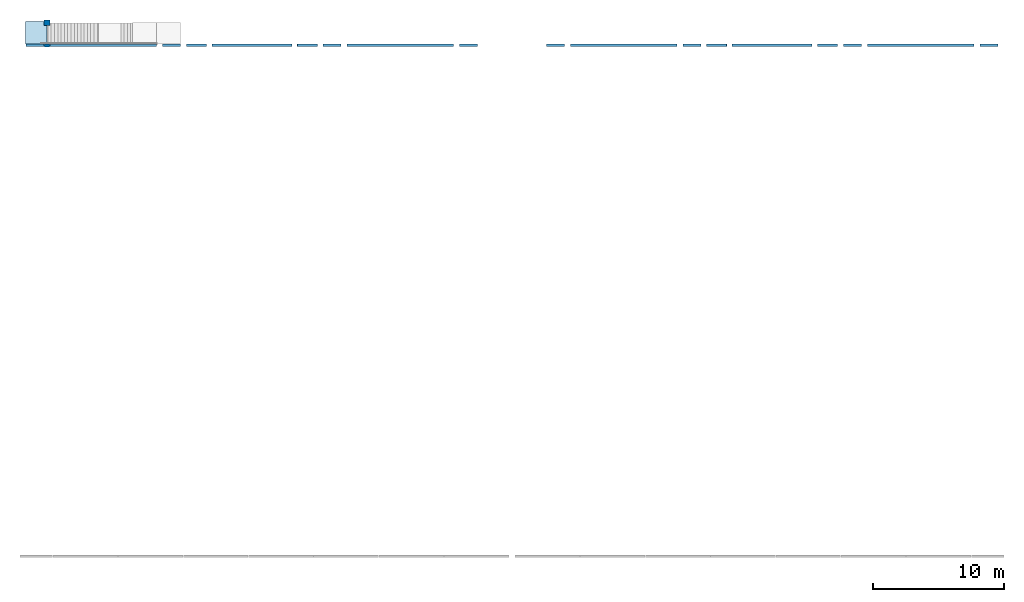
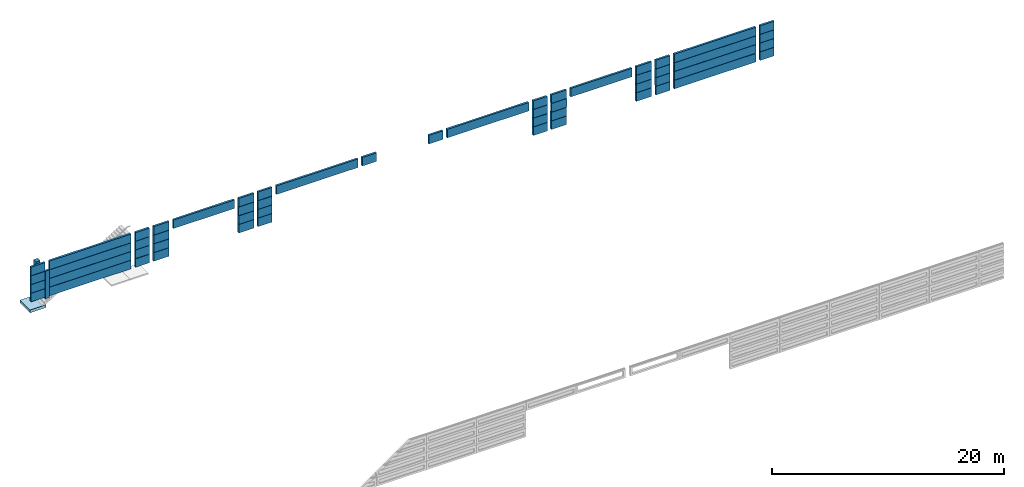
# One storey, part 1 of 5: 54 beams, 2 columns, 1 slab.
"""IFC2X3 building model written with IfcOpenShell, lengths in millimetres."""

from ifc_helpers import new_model, entity, si_unit, converted_unit, derived_unit, direction, frame, frame_2d, origin, origin_2d_with_axis, place, context, subcontext, project, spatial, polyline, rectangle, outline, extrude, source, transform, mapped, material, layer, layer_set, layer_usage, type_object, type_shapes, element, save


model = new_model("IFC2X3")

# Units and contexts
model_context = context("Model", 3, precision=0.01, world=origin(), true_north=direction((6.12303176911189e-17, 1.0)))
body_context = subcontext(model_context, "Body", "Model", "MODEL_VIEW")
ifc_project = project(units=[si_unit("LENGTHUNIT", "METRE", prefix="MILLI"), si_unit("AREAUNIT", "SQUARE_METRE"), si_unit("VOLUMEUNIT", "CUBIC_METRE"), converted_unit("PLANEANGLEUNIT", "DEGREE", entity("IfcRatioMeasure", 0.0174532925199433), si_unit("PLANEANGLEUNIT", "RADIAN"), dimensions=[0, 0, 0, 0, 0, 0, 0]), si_unit("MASSUNIT", "GRAM", prefix="KILO"), derived_unit("MASSDENSITYUNIT", [(si_unit("MASSUNIT", "GRAM", prefix="KILO"), 1), (si_unit("LENGTHUNIT", "METRE"), -3)]), derived_unit("MOMENTOFINERTIAUNIT", [(si_unit("LENGTHUNIT", "METRE"), 4)]), si_unit("TIMEUNIT", "SECOND"), si_unit("FREQUENCYUNIT", "HERTZ"), si_unit("THERMODYNAMICTEMPERATUREUNIT", "DEGREE_CELSIUS"), derived_unit("THERMALTRANSMITTANCEUNIT", [(si_unit("MASSUNIT", "GRAM", prefix="KILO"), 1), (si_unit("THERMODYNAMICTEMPERATUREUNIT", "KELVIN"), -1), (si_unit("TIMEUNIT", "SECOND"), -3)]), derived_unit("VOLUMETRICFLOWRATEUNIT", [(si_unit("LENGTHUNIT", "METRE"), 3), (si_unit("TIMEUNIT", "SECOND"), -1)]), si_unit("ELECTRICCURRENTUNIT", "AMPERE"), si_unit("ELECTRICVOLTAGEUNIT", "VOLT"), si_unit("POWERUNIT", "WATT"), si_unit("FORCEUNIT", "NEWTON", prefix="KILO"), si_unit("ILLUMINANCEUNIT", "LUX"), si_unit("LUMINOUSFLUXUNIT", "LUMEN"), si_unit("LUMINOUSINTENSITYUNIT", "CANDELA"), derived_unit("USERDEFINED", [(si_unit("MASSUNIT", "GRAM", prefix="KILO"), -1), (si_unit("LENGTHUNIT", "METRE"), -2), (si_unit("TIMEUNIT", "SECOND"), 3), (si_unit("LUMINOUSFLUXUNIT", "LUMEN"), 1)]), derived_unit("LINEARVELOCITYUNIT", [(si_unit("LENGTHUNIT", "METRE"), 1), (si_unit("TIMEUNIT", "SECOND"), -1)]), si_unit("PRESSUREUNIT", "PASCAL"), derived_unit("USERDEFINED", [(si_unit("LENGTHUNIT", "METRE"), -2), (si_unit("MASSUNIT", "GRAM", prefix="KILO"), 1), (si_unit("TIMEUNIT", "SECOND"), -2)]), derived_unit("LINEARFORCEUNIT", [(si_unit("MASSUNIT", "GRAM", prefix="KILO"), 1), (si_unit("LENGTHUNIT", "METRE"), 1), (si_unit("TIMEUNIT", "SECOND"), -2), (si_unit("LENGTHUNIT", "METRE"), -1)]), derived_unit("PLANARFORCEUNIT", [(si_unit("MASSUNIT", "GRAM", prefix="KILO"), 1), (si_unit("LENGTHUNIT", "METRE"), 1), (si_unit("TIMEUNIT", "SECOND"), -2), (si_unit("LENGTHUNIT", "METRE"), -2)])], contexts=[model_context])

# Site, building, storey
site_placement = place(None, frame((10627.5135316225, 21939.0796949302, 0.0)))
site = spatial("IfcSite", under=ifc_project, at=site_placement, Name="Default", CompositionType="ELEMENT")
building_placement = place(site_placement, origin())
building = spatial("IfcBuilding", under=site, at=building_placement, CompositionType="ELEMENT")
storey_placement = place(building_placement, origin())
storey = spatial("IfcBuildingStorey", under=building, at=storey_placement, Name="RDC", CompositionType="ELEMENT", Elevation=0.0)

# Columns
ifc_material_1 = material(Name="Concrete, Precast Smooth, Light Grey")
column_type_1 = type_object("IfcColumnType", Name="M_Precast-Rectangular Column:430X200", PredefinedType="COLUMN", material=ifc_material_1)
shared_shape_1 = source(origin(), body_context, "Body", "SweptSolid", [
    extrude(outline(polyline([(-75.0, -215.0), (75.0, -215.0), (100.0, -190.0), (100.0, 190.0), (75.0, 215.0), (-75.0, 215.0), (-100.0, 190.0), (-100.0, -190.0), (-75.0, -215.0)])), frame((0.0, 0.0, 0.0), z_axis=(0.0, 0.0, 1.0), x_axis=(0.0, -1.0, 0.0)), (0.0, 0.0, 1.0), 2910.0),
])
type_shapes(column_type_1, [shared_shape_1])
column_1_placement = place(storey_placement, frame((-8797.51353162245, 16590.9203050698, 0.0), z_axis=(0.0, 0.0, 1.0), x_axis=(-1.0, 0.0, 0.0)))
element("IfcColumn", 1, at=column_1_placement, inside=storey, type_object=column_type_1, material=ifc_material_1, Name="M_Precast-Rectangular Column:430X200", ObjectType="M_Precast-Rectangular Column:430X200", context=body_context, shape_type="MappedRepresentation", body=[
    mapped(shared_shape_1, transform((0.0, 0.0, 0.0), scale=1.0)),
])
column_type_2 = type_object("IfcColumnType", Name="M_Precast-Square Column:430x430", PredefinedType="COLUMN", material=ifc_material_1)
shared_shape_2 = source(origin(), body_context, "Body", "SweptSolid", [
    extrude(rectangle(XDim=430.0, YDim=430.0, at=origin_2d_with_axis()), frame((0.0, 0.0, 0.0), z_axis=(0.0, 0.0, 1.0), x_axis=(0.0, -1.0, 0.0)), (0.0, 0.0, 1.0), 2910.0),
])
type_shapes(column_type_2, [shared_shape_2])
column_2_placement = place(storey_placement, frame((-8797.51353162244, 18310.9203050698, 0.0), z_axis=(0.0, 0.0, 1.0), x_axis=(-1.0, 0.0, 0.0)))
element("IfcColumn", 2, at=column_2_placement, inside=storey, type_object=column_type_2, material=ifc_material_1, Name="M_Precast-Square Column:430x430", ObjectType="M_Precast-Square Column:430x430", context=body_context, shape_type="MappedRepresentation", body=[
    mapped(shared_shape_2, transform((0.0, 0.0, 0.0), scale=1.0)),
])

# Beams
beam_type_1 = type_object("IfcBeamType", Name="NBS_AndertonConcreteProductsLtd_PrcstConcPnls_BallastBoard300:PPT TYPE4", PredefinedType="NOTDEFINED")
beam_1_placement = place(storey_placement, origin())
element("IfcBeam", 3, at=beam_1_placement, inside=storey, type_object=beam_type_1, material=ifc_material_1, Name="NBS_AndertonConcreteProductsLtd_PrcstConcPnls_BallastBoard300:PPT TYPE4", ObjectType="NBS_AndertonConcreteProductsLtd_PrcstConcPnls_BallastBoard300:PPT TYPE4", context=body_context, shape_type="SweptSolid", body=[
    extrude(rectangle(XDim=898.300000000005, YDim=200.0, at=frame_2d((1.08713038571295e-12, 3.97903932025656e-13), x_axis=(0.0, 1.0))), frame((-8582.51353162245, 16595.9203050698, 2459.15), z_axis=(1.0, 0.0, 0.0), x_axis=(0.0, 1.0, 0.0)), (0.0, 0.0, 1.0), 8120.0),
])
beam_2_placement = place(storey_placement, origin())
element("IfcBeam", 4, at=beam_2_placement, inside=storey, type_object=beam_type_1, material=ifc_material_1, Name="NBS_AndertonConcreteProductsLtd_PrcstConcPnls_BallastBoard300:PPT TYPE4", ObjectType="NBS_AndertonConcreteProductsLtd_PrcstConcPnls_BallastBoard300:PPT TYPE4", context=body_context, shape_type="SweptSolid", body=[
    extrude(rectangle(XDim=898.300000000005, YDim=200.0, at=frame_2d((1.08713038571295e-12, -1.4210854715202e-13), x_axis=(0.0, 1.0))), frame((-8582.51353162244, 16595.9203050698, 1540.84999999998), z_axis=(1.0, 0.0, 0.0), x_axis=(0.0, 1.0, 0.0)), (0.0, 0.0, 1.0), 8120.0),
])
beam_3_placement = place(storey_placement, origin())
element("IfcBeam", 5, at=beam_3_placement, inside=storey, type_object=beam_type_1, material=ifc_material_1, Name="NBS_AndertonConcreteProductsLtd_PrcstConcPnls_BallastBoard300:PPT TYPE4", ObjectType="NBS_AndertonConcreteProductsLtd_PrcstConcPnls_BallastBoard300:PPT TYPE4", context=body_context, shape_type="SweptSolid", body=[
    extrude(rectangle(XDim=898.300000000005, YDim=200.0, at=frame_2d((-1.08713038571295e-12, 0.0), x_axis=(0.0, 1.0))), frame((-8582.51353162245, 16595.9203050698, 622.549999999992), z_axis=(1.0, 0.0, 0.0), x_axis=(0.0, 1.0, 0.0)), (0.0, 0.0, 1.0), 8120.0),
])
beam_4_placement = place(storey_placement, origin())
element("IfcBeam", 6, at=beam_4_placement, inside=storey, type_object=beam_type_1, material=ifc_material_1, Name="NBS_AndertonConcreteProductsLtd_PrcstConcPnls_BallastBoard300:PPT TYPE4", ObjectType="NBS_AndertonConcreteProductsLtd_PrcstConcPnls_BallastBoard300:PPT TYPE4", context=body_context, shape_type="SweptSolid", body=[
    extrude(rectangle(XDim=898.300000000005, YDim=200.0, at=frame_2d((-1.08713038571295e-12, 0.0), x_axis=(0.0, 1.0))), frame((-8582.51353162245, 16595.9203050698, 3377.45000000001), z_axis=(1.0, 0.0, 0.0), x_axis=(0.0, 1.0, 0.0)), (0.0, 0.0, 1.0), 8120.0),
])
beam_5_placement = place(storey_placement, origin())
element("IfcBeam", 7, at=beam_5_placement, inside=storey, type_object=beam_type_1, material=ifc_material_1, Name="NBS_AndertonConcreteProductsLtd_PrcstConcPnls_BallastBoard300:PPT TYPE4", ObjectType="NBS_AndertonConcreteProductsLtd_PrcstConcPnls_BallastBoard300:PPT TYPE4", context=body_context, shape_type="SweptSolid", body=[
    extrude(rectangle(XDim=898.300000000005, YDim=200.0, at=frame_2d((1.08713038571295e-12, 0.0), x_axis=(0.0, 1.0))), frame((14015.4864683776, 16595.9203050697, 3377.45000000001), z_axis=(1.0, 0.0, 0.0), x_axis=(0.0, 1.0, 0.0)), (0.0, 0.0, 1.0), 8120.0),
])
beam_6_placement = place(storey_placement, origin())
element("IfcBeam", 8, at=beam_6_placement, inside=storey, type_object=beam_type_1, material=ifc_material_1, Name="NBS_AndertonConcreteProductsLtd_PrcstConcPnls_BallastBoard300:PPT TYPE4", ObjectType="NBS_AndertonConcreteProductsLtd_PrcstConcPnls_BallastBoard300:PPT TYPE4", context=body_context, shape_type="SweptSolid", body=[
    extrude(rectangle(XDim=898.300000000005, YDim=200.0, at=frame_2d((1.4210854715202e-13, 1.08713038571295e-12), x_axis=(1.0, 0.0))), frame((53617.4864683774, 16595.9203050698, 2459.15), z_axis=(1.0, 0.0, 0.0), x_axis=(0.0, 0.0, -1.0)), (0.0, 0.0, 1.0), 8120.0),
])
beam_7_placement = place(storey_placement, origin())
element("IfcBeam", 9, at=beam_7_placement, inside=storey, type_object=beam_type_1, material=ifc_material_1, Name="NBS_AndertonConcreteProductsLtd_PrcstConcPnls_BallastBoard300:PPT TYPE4", ObjectType="NBS_AndertonConcreteProductsLtd_PrcstConcPnls_BallastBoard300:PPT TYPE4", context=body_context, shape_type="SweptSolid", body=[
    extrude(rectangle(XDim=898.300000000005, YDim=200.0, at=frame_2d((0.0, 1.08713038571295e-12), x_axis=(1.0, 0.0))), frame((53617.4864683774, 16595.9203050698, 1540.84999999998), z_axis=(1.0, 0.0, 0.0), x_axis=(0.0, 0.0, -1.0)), (0.0, 0.0, 1.0), 8120.0),
])
beam_8_placement = place(storey_placement, origin())
element("IfcBeam", 10, at=beam_8_placement, inside=storey, type_object=beam_type_1, material=ifc_material_1, Name="NBS_AndertonConcreteProductsLtd_PrcstConcPnls_BallastBoard300:PPT TYPE4", ObjectType="NBS_AndertonConcreteProductsLtd_PrcstConcPnls_BallastBoard300:PPT TYPE4", context=body_context, shape_type="SweptSolid", body=[
    extrude(rectangle(XDim=898.300000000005, YDim=200.0, at=frame_2d((0.0, -1.08713038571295e-12), x_axis=(1.0, 0.0))), frame((53617.4864683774, 16595.9203050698, 622.549999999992), z_axis=(1.0, 0.0, 0.0), x_axis=(0.0, 0.0, -1.0)), (0.0, 0.0, 1.0), 8120.0),
])
beam_9_placement = place(storey_placement, origin())
element("IfcBeam", 11, at=beam_9_placement, inside=storey, type_object=beam_type_1, material=ifc_material_1, Name="NBS_AndertonConcreteProductsLtd_PrcstConcPnls_BallastBoard300:PPT TYPE4", ObjectType="NBS_AndertonConcreteProductsLtd_PrcstConcPnls_BallastBoard300:PPT TYPE4", context=body_context, shape_type="SweptSolid", body=[
    extrude(rectangle(XDim=898.300000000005, YDim=200.0, at=frame_2d((2.8421709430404e-13, 1.08713038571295e-12), x_axis=(1.0, 0.0))), frame((53617.4864683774, 16595.9203050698, 3377.45000000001), z_axis=(1.0, 0.0, 0.0), x_axis=(0.0, 0.0, -1.0)), (0.0, 0.0, 1.0), 8120.0),
])
beam_10_placement = place(storey_placement, origin())
element("IfcBeam", 12, at=beam_10_placement, inside=storey, type_object=beam_type_1, material=ifc_material_1, Name="NBS_AndertonConcreteProductsLtd_PrcstConcPnls_BallastBoard300:PPT TYPE4", ObjectType="NBS_AndertonConcreteProductsLtd_PrcstConcPnls_BallastBoard300:PPT TYPE4", context=body_context, shape_type="SweptSolid", body=[
    extrude(rectangle(XDim=898.300000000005, YDim=200.0, at=frame_2d((2.8421709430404e-13, -1.08713038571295e-12), x_axis=(1.0, 0.0))), frame((31019.4864683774, 16595.9203050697, 3377.45000000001), z_axis=(1.0, 0.0, 0.0), x_axis=(0.0, 0.0, -1.0)), (0.0, 0.0, 1.0), 8120.0),
])
beam_type_2 = type_object("IfcBeamType", Name="NBS_AndertonConcreteProductsLtd_PrcstConcPnls_BallastBoard300:PPT TYPE5", PredefinedType="NOTDEFINED")
beam_11_placement = place(storey_placement, origin())
element("IfcBeam", 13, at=beam_11_placement, inside=storey, type_object=beam_type_2, material=ifc_material_1, Name="NBS_AndertonConcreteProductsLtd_PrcstConcPnls_BallastBoard300:PPT TYPE5", ObjectType="NBS_AndertonConcreteProductsLtd_PrcstConcPnls_BallastBoard300:PPT TYPE5", context=body_context, shape_type="SweptSolid", body=[
    extrude(rectangle(XDim=898.300000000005, YDim=200.0, at=frame_2d((-1.08713038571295e-12, 3.97903932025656e-13), x_axis=(0.0, 1.0))), frame((1799.48646837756, 16595.9203050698, 2459.15), z_axis=(1.0, 0.0, 0.0), x_axis=(0.0, 1.0, 0.0)), (0.0, 0.0, 1.0), 1525.0),
])
beam_12_placement = place(storey_placement, origin())
element("IfcBeam", 14, at=beam_12_placement, inside=storey, type_object=beam_type_2, material=ifc_material_1, Name="NBS_AndertonConcreteProductsLtd_PrcstConcPnls_BallastBoard300:PPT TYPE5", ObjectType="NBS_AndertonConcreteProductsLtd_PrcstConcPnls_BallastBoard300:PPT TYPE5", context=body_context, shape_type="SweptSolid", body=[
    extrude(rectangle(XDim=898.300000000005, YDim=200.0, at=frame_2d((-1.08713038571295e-12, -1.4210854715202e-13), x_axis=(0.0, 1.0))), frame((1799.48646837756, 16595.9203050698, 1540.85), z_axis=(1.0, 0.0, 0.0), x_axis=(0.0, 1.0, 0.0)), (0.0, 0.0, 1.0), 1525.0),
])
beam_13_placement = place(storey_placement, origin())
element("IfcBeam", 15, at=beam_13_placement, inside=storey, type_object=beam_type_2, material=ifc_material_1, Name="NBS_AndertonConcreteProductsLtd_PrcstConcPnls_BallastBoard300:PPT TYPE5", ObjectType="NBS_AndertonConcreteProductsLtd_PrcstConcPnls_BallastBoard300:PPT TYPE5", context=body_context, shape_type="SweptSolid", body=[
    extrude(rectangle(XDim=898.300000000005, YDim=200.0, at=frame_2d((1.08713038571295e-12, 0.0), x_axis=(0.0, 1.0))), frame((1799.48646837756, 16595.9203050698, 622.549999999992), z_axis=(1.0, 0.0, 0.0), x_axis=(0.0, 1.0, 0.0)), (0.0, 0.0, 1.0), 1525.0),
])
beam_14_placement = place(storey_placement, origin())
element("IfcBeam", 16, at=beam_14_placement, inside=storey, type_object=beam_type_2, material=ifc_material_1, Name="NBS_AndertonConcreteProductsLtd_PrcstConcPnls_BallastBoard300:PPT TYPE5", ObjectType="NBS_AndertonConcreteProductsLtd_PrcstConcPnls_BallastBoard300:PPT TYPE5", context=body_context, shape_type="SweptSolid", body=[
    extrude(rectangle(XDim=898.300000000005, YDim=200.0, at=frame_2d((1.08713038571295e-12, 0.0), x_axis=(0.0, 1.0))), frame((1799.48646837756, 16595.9203050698, 3377.45000000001), z_axis=(1.0, 0.0, 0.0), x_axis=(0.0, 1.0, 0.0)), (0.0, 0.0, 1.0), 1525.0),
])
beam_15_placement = place(storey_placement, origin())
element("IfcBeam", 17, at=beam_15_placement, inside=storey, type_object=beam_type_2, material=ifc_material_1, Name="NBS_AndertonConcreteProductsLtd_PrcstConcPnls_BallastBoard300:PPT TYPE5", ObjectType="NBS_AndertonConcreteProductsLtd_PrcstConcPnls_BallastBoard300:PPT TYPE5", context=body_context, shape_type="SweptSolid", body=[
    extrude(rectangle(XDim=898.300000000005, YDim=200.0, at=frame_2d((1.08713038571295e-12, 3.97903932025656e-13), x_axis=(0.0, 1.0))), frame((10233.6417434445, 16595.9203050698, 2459.15), z_axis=(1.0, 0.0, 0.0), x_axis=(0.0, 1.0, 0.0)), (0.0, 0.0, 1.0), 1525.0),
])
beam_16_placement = place(storey_placement, origin())
element("IfcBeam", 18, at=beam_16_placement, inside=storey, type_object=beam_type_2, material=ifc_material_1, Name="NBS_AndertonConcreteProductsLtd_PrcstConcPnls_BallastBoard300:PPT TYPE5", ObjectType="NBS_AndertonConcreteProductsLtd_PrcstConcPnls_BallastBoard300:PPT TYPE5", context=body_context, shape_type="SweptSolid", body=[
    extrude(rectangle(XDim=898.300000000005, YDim=200.0, at=frame_2d((1.08713038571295e-12, -1.4210854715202e-13), x_axis=(0.0, 1.0))), frame((10258.6417434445, 16595.9203050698, 1540.85), z_axis=(1.0, 0.0, 0.0), x_axis=(0.0, 1.0, 0.0)), (0.0, 0.0, 1.0), 1525.0),
])
beam_17_placement = place(storey_placement, origin())
element("IfcBeam", 19, at=beam_17_placement, inside=storey, type_object=beam_type_2, material=ifc_material_1, Name="NBS_AndertonConcreteProductsLtd_PrcstConcPnls_BallastBoard300:PPT TYPE5", ObjectType="NBS_AndertonConcreteProductsLtd_PrcstConcPnls_BallastBoard300:PPT TYPE5", context=body_context, shape_type="SweptSolid", body=[
    extrude(rectangle(XDim=898.300000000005, YDim=200.0, at=frame_2d((1.08713038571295e-12, 0.0), x_axis=(0.0, 1.0))), frame((10258.6417434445, 16595.9203050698, 622.549999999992), z_axis=(1.0, 0.0, 0.0), x_axis=(0.0, 1.0, 0.0)), (0.0, 0.0, 1.0), 1525.0),
])
beam_18_placement = place(storey_placement, origin())
element("IfcBeam", 20, at=beam_18_placement, inside=storey, type_object=beam_type_2, material=ifc_material_1, Name="NBS_AndertonConcreteProductsLtd_PrcstConcPnls_BallastBoard300:PPT TYPE5", ObjectType="NBS_AndertonConcreteProductsLtd_PrcstConcPnls_BallastBoard300:PPT TYPE5", context=body_context, shape_type="SweptSolid", body=[
    extrude(rectangle(XDim=898.300000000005, YDim=200.0, at=frame_2d((-1.08713038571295e-12, 0.0), x_axis=(0.0, 1.0))), frame((10258.6417434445, 16595.9203050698, 3377.45000000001), z_axis=(1.0, 0.0, 0.0), x_axis=(0.0, 1.0, 0.0)), (0.0, 0.0, 1.0), 1525.0),
])
beam_19_placement = place(storey_placement, origin())
element("IfcBeam", 21, at=beam_19_placement, inside=storey, type_object=beam_type_2, material=ifc_material_1, Name="NBS_AndertonConcreteProductsLtd_PrcstConcPnls_BallastBoard300:PPT TYPE5", ObjectType="NBS_AndertonConcreteProductsLtd_PrcstConcPnls_BallastBoard300:PPT TYPE5", context=body_context, shape_type="SweptSolid", body=[
    extrude(rectangle(XDim=898.300000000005, YDim=200.0, at=frame_2d((1.4210854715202e-13, -1.08713038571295e-12), x_axis=(1.0, 0.0))), frame((49830.4864683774, 16595.9203050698, 2459.15), z_axis=(1.0, 0.0, 0.0), x_axis=(0.0, 0.0, -1.0)), (0.0, 0.0, 1.0), 1525.0),
])
beam_20_placement = place(storey_placement, origin())
element("IfcBeam", 22, at=beam_20_placement, inside=storey, type_object=beam_type_2, material=ifc_material_1, Name="NBS_AndertonConcreteProductsLtd_PrcstConcPnls_BallastBoard300:PPT TYPE5", ObjectType="NBS_AndertonConcreteProductsLtd_PrcstConcPnls_BallastBoard300:PPT TYPE5", context=body_context, shape_type="SweptSolid", body=[
    extrude(rectangle(XDim=898.300000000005, YDim=200.0, at=frame_2d((0.0, -1.08713038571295e-12), x_axis=(1.0, 0.0))), frame((49830.4864683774, 16595.9203050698, 1540.85), z_axis=(1.0, 0.0, 0.0), x_axis=(0.0, 0.0, -1.0)), (0.0, 0.0, 1.0), 1525.0),
])
beam_21_placement = place(storey_placement, origin())
element("IfcBeam", 23, at=beam_21_placement, inside=storey, type_object=beam_type_2, material=ifc_material_1, Name="NBS_AndertonConcreteProductsLtd_PrcstConcPnls_BallastBoard300:PPT TYPE5", ObjectType="NBS_AndertonConcreteProductsLtd_PrcstConcPnls_BallastBoard300:PPT TYPE5", context=body_context, shape_type="SweptSolid", body=[
    extrude(rectangle(XDim=898.300000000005, YDim=200.0, at=frame_2d((0.0, -1.08713038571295e-12), x_axis=(1.0, 0.0))), frame((49830.4864683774, 16595.9203050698, 622.549999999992), z_axis=(1.0, 0.0, 0.0), x_axis=(0.0, 0.0, -1.0)), (0.0, 0.0, 1.0), 1525.0),
])
beam_22_placement = place(storey_placement, origin())
element("IfcBeam", 24, at=beam_22_placement, inside=storey, type_object=beam_type_2, material=ifc_material_1, Name="NBS_AndertonConcreteProductsLtd_PrcstConcPnls_BallastBoard300:PPT TYPE5", ObjectType="NBS_AndertonConcreteProductsLtd_PrcstConcPnls_BallastBoard300:PPT TYPE5", context=body_context, shape_type="SweptSolid", body=[
    extrude(rectangle(XDim=898.300000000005, YDim=200.0, at=frame_2d((2.8421709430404e-13, 1.08713038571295e-12), x_axis=(1.0, 0.0))), frame((49830.4864683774, 16595.9203050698, 3377.45000000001), z_axis=(1.0, 0.0, 0.0), x_axis=(0.0, 0.0, -1.0)), (0.0, 0.0, 1.0), 1525.0),
])
beam_23_placement = place(storey_placement, origin())
element("IfcBeam", 25, at=beam_23_placement, inside=storey, type_object=beam_type_2, material=ifc_material_1, Name="NBS_AndertonConcreteProductsLtd_PrcstConcPnls_BallastBoard300:PPT TYPE5", ObjectType="NBS_AndertonConcreteProductsLtd_PrcstConcPnls_BallastBoard300:PPT TYPE5", context=body_context, shape_type="SweptSolid", body=[
    extrude(rectangle(XDim=898.300000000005, YDim=200.0, at=frame_2d((1.4210854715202e-13, 1.08713038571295e-12), x_axis=(1.0, 0.0))), frame((41396.3311933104, 16595.9203050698, 2459.15), z_axis=(1.0, 0.0, 0.0), x_axis=(0.0, 0.0, -1.0)), (0.0, 0.0, 1.0), 1525.0),
])
beam_24_placement = place(storey_placement, origin())
element("IfcBeam", 26, at=beam_24_placement, inside=storey, type_object=beam_type_2, material=ifc_material_1, Name="NBS_AndertonConcreteProductsLtd_PrcstConcPnls_BallastBoard300:PPT TYPE5", ObjectType="NBS_AndertonConcreteProductsLtd_PrcstConcPnls_BallastBoard300:PPT TYPE5", context=body_context, shape_type="SweptSolid", body=[
    extrude(rectangle(XDim=898.300000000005, YDim=200.0, at=frame_2d((0.0, 1.08713038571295e-12), x_axis=(1.0, 0.0))), frame((41371.3311933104, 16595.9203050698, 1540.85), z_axis=(1.0, 0.0, 0.0), x_axis=(0.0, 0.0, -1.0)), (0.0, 0.0, 1.0), 1525.0),
])
beam_25_placement = place(storey_placement, origin())
element("IfcBeam", 27, at=beam_25_placement, inside=storey, type_object=beam_type_2, material=ifc_material_1, Name="NBS_AndertonConcreteProductsLtd_PrcstConcPnls_BallastBoard300:PPT TYPE5", ObjectType="NBS_AndertonConcreteProductsLtd_PrcstConcPnls_BallastBoard300:PPT TYPE5", context=body_context, shape_type="SweptSolid", body=[
    extrude(rectangle(XDim=898.300000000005, YDim=200.0, at=frame_2d((0.0, -1.08713038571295e-12), x_axis=(1.0, 0.0))), frame((41371.3311933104, 16595.9203050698, 622.549999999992), z_axis=(1.0, 0.0, 0.0), x_axis=(0.0, 0.0, -1.0)), (0.0, 0.0, 1.0), 1525.0),
])
beam_26_placement = place(storey_placement, origin())
element("IfcBeam", 28, at=beam_26_placement, inside=storey, type_object=beam_type_2, material=ifc_material_1, Name="NBS_AndertonConcreteProductsLtd_PrcstConcPnls_BallastBoard300:PPT TYPE5", ObjectType="NBS_AndertonConcreteProductsLtd_PrcstConcPnls_BallastBoard300:PPT TYPE5", context=body_context, shape_type="SweptSolid", body=[
    extrude(rectangle(XDim=898.300000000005, YDim=200.0, at=frame_2d((2.8421709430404e-13, -1.08713038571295e-12), x_axis=(1.0, 0.0))), frame((41371.3311933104, 16595.9203050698, 3377.45000000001), z_axis=(1.0, 0.0, 0.0), x_axis=(0.0, 0.0, -1.0)), (0.0, 0.0, 1.0), 1525.0),
])
beam_type_3 = type_object("IfcBeamType", Name="NBS_AndertonConcreteProductsLtd_PrcstConcPnls_BallastBoard300:PPT TYPE6", PredefinedType="NOTDEFINED")
beam_27_placement = place(storey_placement, origin())
element("IfcBeam", 29, at=beam_27_placement, inside=storey, type_object=beam_type_3, material=ifc_material_1, Name="NBS_AndertonConcreteProductsLtd_PrcstConcPnls_BallastBoard300:PPT TYPE6", ObjectType="NBS_AndertonConcreteProductsLtd_PrcstConcPnls_BallastBoard300:PPT TYPE6", context=body_context, shape_type="SweptSolid", body=[
    extrude(rectangle(XDim=898.300000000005, YDim=200.0, at=frame_2d((1.08713038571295e-12, 0.0), x_axis=(0.0, 1.0))), frame((3764.48646837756, 16595.9203050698, 3377.45000000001), z_axis=(1.0, 0.0, 0.0), x_axis=(0.0, 1.0, 0.0)), (0.0, 0.0, 1.0), 6066.3),
])
beam_28_placement = place(storey_placement, origin())
element("IfcBeam", 30, at=beam_28_placement, inside=storey, type_object=beam_type_3, material=ifc_material_1, Name="NBS_AndertonConcreteProductsLtd_PrcstConcPnls_BallastBoard300:PPT TYPE6", ObjectType="NBS_AndertonConcreteProductsLtd_PrcstConcPnls_BallastBoard300:PPT TYPE6", context=body_context, shape_type="SweptSolid", body=[
    extrude(rectangle(XDim=898.300000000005, YDim=200.0, at=frame_2d((2.8421709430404e-13, -1.08713038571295e-12), x_axis=(1.0, 0.0))), frame((43324.1864683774, 16595.9203050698, 3377.45000000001), z_axis=(1.0, 0.0, 0.0), x_axis=(0.0, 0.0, -1.0)), (0.0, 0.0, 1.0), 6066.3),
])
beam_type_4 = type_object("IfcBeamType", Name="NBS_AndertonConcreteProductsLtd_PrcstConcPnls_BallastBoard300:PPT TYPE7", PredefinedType="NOTDEFINED")
beam_29_placement = place(storey_placement, origin())
element("IfcBeam", 31, at=beam_29_placement, inside=storey, type_object=beam_type_4, material=ifc_material_1, Name="NBS_AndertonConcreteProductsLtd_PrcstConcPnls_BallastBoard300:PPT TYPE7", ObjectType="NBS_AndertonConcreteProductsLtd_PrcstConcPnls_BallastBoard300:PPT TYPE7", context=body_context, shape_type="SweptSolid", body=[
    extrude(rectangle(XDim=898.300000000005, YDim=200.0, at=frame_2d((-1.08713038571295e-12, 3.97903932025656e-13), x_axis=(0.0, 1.0))), frame((12183.4864683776, 16595.9203050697, 2459.15), z_axis=(1.0, 0.0, 0.0), x_axis=(0.0, 1.0, 0.0)), (0.0, 0.0, 1.0), 1395.0),
])
beam_30_placement = place(storey_placement, origin())
element("IfcBeam", 32, at=beam_30_placement, inside=storey, type_object=beam_type_4, material=ifc_material_1, Name="NBS_AndertonConcreteProductsLtd_PrcstConcPnls_BallastBoard300:PPT TYPE7", ObjectType="NBS_AndertonConcreteProductsLtd_PrcstConcPnls_BallastBoard300:PPT TYPE7", context=body_context, shape_type="SweptSolid", body=[
    extrude(rectangle(XDim=898.300000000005, YDim=200.0, at=frame_2d((-1.08713038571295e-12, -1.4210854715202e-13), x_axis=(0.0, 1.0))), frame((12183.4864683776, 16595.9203050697, 1540.85), z_axis=(1.0, 0.0, 0.0), x_axis=(0.0, 1.0, 0.0)), (0.0, 0.0, 1.0), 1395.0),
])
beam_31_placement = place(storey_placement, origin())
element("IfcBeam", 33, at=beam_31_placement, inside=storey, type_object=beam_type_4, material=ifc_material_1, Name="NBS_AndertonConcreteProductsLtd_PrcstConcPnls_BallastBoard300:PPT TYPE7", ObjectType="NBS_AndertonConcreteProductsLtd_PrcstConcPnls_BallastBoard300:PPT TYPE7", context=body_context, shape_type="SweptSolid", body=[
    extrude(rectangle(XDim=898.300000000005, YDim=200.0, at=frame_2d((1.08713038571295e-12, 0.0), x_axis=(0.0, 1.0))), frame((12183.4864683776, 16595.9203050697, 622.549999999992), z_axis=(1.0, 0.0, 0.0), x_axis=(0.0, 1.0, 0.0)), (0.0, 0.0, 1.0), 1395.0),
])
beam_32_placement = place(storey_placement, origin())
element("IfcBeam", 34, at=beam_32_placement, inside=storey, type_object=beam_type_4, material=ifc_material_1, Name="NBS_AndertonConcreteProductsLtd_PrcstConcPnls_BallastBoard300:PPT TYPE7", ObjectType="NBS_AndertonConcreteProductsLtd_PrcstConcPnls_BallastBoard300:PPT TYPE7", context=body_context, shape_type="SweptSolid", body=[
    extrude(rectangle(XDim=898.300000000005, YDim=200.0, at=frame_2d((1.08713038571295e-12, 0.0), x_axis=(0.0, 1.0))), frame((12183.4864683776, 16595.9203050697, 3377.45000000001), z_axis=(1.0, 0.0, 0.0), x_axis=(0.0, 1.0, 0.0)), (0.0, 0.0, 1.0), 1395.0),
])
beam_33_placement = place(storey_placement, origin())
element("IfcBeam", 35, at=beam_33_placement, inside=storey, type_object=beam_type_4, material=ifc_material_1, Name="NBS_AndertonConcreteProductsLtd_PrcstConcPnls_BallastBoard300:PPT TYPE7", ObjectType="NBS_AndertonConcreteProductsLtd_PrcstConcPnls_BallastBoard300:PPT TYPE7", context=body_context, shape_type="SweptSolid", body=[
    extrude(rectangle(XDim=898.300000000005, YDim=200.0, at=frame_2d((1.08713038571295e-12, 0.0), x_axis=(0.0, 1.0))), frame((-28.5135316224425, 16595.9203050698, 622.549999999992), z_axis=(1.0, 0.0, 0.0), x_axis=(0.0, 1.0, 0.0)), (0.0, 0.0, 1.0), 1395.0),
])
beam_34_placement = place(storey_placement, origin())
element("IfcBeam", 36, at=beam_34_placement, inside=storey, type_object=beam_type_4, material=ifc_material_1, Name="NBS_AndertonConcreteProductsLtd_PrcstConcPnls_BallastBoard300:PPT TYPE7", ObjectType="NBS_AndertonConcreteProductsLtd_PrcstConcPnls_BallastBoard300:PPT TYPE7", context=body_context, shape_type="SweptSolid", body=[
    extrude(rectangle(XDim=898.300000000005, YDim=200.0, at=frame_2d((1.08713038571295e-12, 3.97903932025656e-13), x_axis=(0.0, 1.0))), frame((-24.5135316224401, 16595.9203050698, 2459.15), z_axis=(1.0, 0.0, 0.0), x_axis=(0.0, 1.0, 0.0)), (0.0, 0.0, 1.0), 1395.0),
])
beam_35_placement = place(storey_placement, origin())
element("IfcBeam", 37, at=beam_35_placement, inside=storey, type_object=beam_type_4, material=ifc_material_1, Name="NBS_AndertonConcreteProductsLtd_PrcstConcPnls_BallastBoard300:PPT TYPE7", ObjectType="NBS_AndertonConcreteProductsLtd_PrcstConcPnls_BallastBoard300:PPT TYPE7", context=body_context, shape_type="SweptSolid", body=[
    extrude(rectangle(XDim=898.300000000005, YDim=200.0, at=frame_2d((1.08713038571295e-12, -1.4210854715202e-13), x_axis=(0.0, 1.0))), frame((-24.5135316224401, 16595.9203050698, 1540.85), z_axis=(1.0, 0.0, 0.0), x_axis=(0.0, 1.0, 0.0)), (0.0, 0.0, 1.0), 1395.0),
])
beam_36_placement = place(storey_placement, origin())
element("IfcBeam", 38, at=beam_36_placement, inside=storey, type_object=beam_type_4, material=ifc_material_1, Name="NBS_AndertonConcreteProductsLtd_PrcstConcPnls_BallastBoard300:PPT TYPE7", ObjectType="NBS_AndertonConcreteProductsLtd_PrcstConcPnls_BallastBoard300:PPT TYPE7", context=body_context, shape_type="SweptSolid", body=[
    extrude(rectangle(XDim=898.300000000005, YDim=200.0, at=frame_2d((-1.08713038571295e-12, 0.0), x_axis=(0.0, 1.0))), frame((-24.5135316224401, 16595.9203050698, 3377.45000000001), z_axis=(1.0, 0.0, 0.0), x_axis=(0.0, 1.0, 0.0)), (0.0, 0.0, 1.0), 1395.0),
])
beam_37_placement = place(storey_placement, origin())
element("IfcBeam", 39, at=beam_37_placement, inside=storey, type_object=beam_type_4, material=ifc_material_1, Name="NBS_AndertonConcreteProductsLtd_PrcstConcPnls_BallastBoard300:PPT TYPE7", ObjectType="NBS_AndertonConcreteProductsLtd_PrcstConcPnls_BallastBoard300:PPT TYPE7", context=body_context, shape_type="SweptSolid", body=[
    extrude(rectangle(XDim=898.300000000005, YDim=200.0, at=frame_2d((1.08713038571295e-12, 0.0), x_axis=(0.0, 1.0))), frame((22567.4864683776, 16595.9203050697, 3377.45000000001), z_axis=(1.0, 0.0, 0.0), x_axis=(0.0, 1.0, 0.0)), (0.0, 0.0, 1.0), 1395.0),
])
beam_38_placement = place(storey_placement, origin())
element("IfcBeam", 40, at=beam_38_placement, inside=storey, type_object=beam_type_4, material=ifc_material_1, Name="NBS_AndertonConcreteProductsLtd_PrcstConcPnls_BallastBoard300:PPT TYPE7", ObjectType="NBS_AndertonConcreteProductsLtd_PrcstConcPnls_BallastBoard300:PPT TYPE7", context=body_context, shape_type="SweptSolid", body=[
    extrude(rectangle(XDim=898.300000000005, YDim=200.0, at=frame_2d((1.08713038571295e-12, 0.0), x_axis=(0.0, 1.0))), frame((-10409.5135316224, 16595.9203050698, 622.549999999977), z_axis=(1.0, 0.0, 0.0), x_axis=(0.0, 1.0, 0.0)), (0.0, 0.0, 1.0), 1395.0),
])
beam_39_placement = place(storey_placement, origin())
element("IfcBeam", 41, at=beam_39_placement, inside=storey, type_object=beam_type_4, material=ifc_material_1, Name="NBS_AndertonConcreteProductsLtd_PrcstConcPnls_BallastBoard300:PPT TYPE7", ObjectType="NBS_AndertonConcreteProductsLtd_PrcstConcPnls_BallastBoard300:PPT TYPE7", context=body_context, shape_type="SweptSolid", body=[
    extrude(rectangle(XDim=898.300000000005, YDim=200.0, at=frame_2d((-1.08713038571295e-12, -1.4210854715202e-13), x_axis=(0.0, 1.0))), frame((-10409.5135316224, 16595.9203050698, 1540.84999999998), z_axis=(1.0, 0.0, 0.0), x_axis=(0.0, 1.0, 0.0)), (0.0, 0.0, 1.0), 1395.0),
])
beam_40_placement = place(storey_placement, origin())
element("IfcBeam", 42, at=beam_40_placement, inside=storey, type_object=beam_type_4, material=ifc_material_1, Name="NBS_AndertonConcreteProductsLtd_PrcstConcPnls_BallastBoard300:PPT TYPE7", ObjectType="NBS_AndertonConcreteProductsLtd_PrcstConcPnls_BallastBoard300:PPT TYPE7", context=body_context, shape_type="SweptSolid", body=[
    extrude(rectangle(XDim=898.300000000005, YDim=200.0, at=frame_2d((-1.08713038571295e-12, 3.97903932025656e-13), x_axis=(0.0, 1.0))), frame((-10409.5135316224, 16595.9203050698, 2459.14999999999), z_axis=(1.0, 0.0, 0.0), x_axis=(0.0, 1.0, 0.0)), (0.0, 0.0, 1.0), 1395.0),
])
beam_41_placement = place(storey_placement, origin())
element("IfcBeam", 43, at=beam_41_placement, inside=storey, type_object=beam_type_4, material=ifc_material_1, Name="NBS_AndertonConcreteProductsLtd_PrcstConcPnls_BallastBoard300:PPT TYPE7", ObjectType="NBS_AndertonConcreteProductsLtd_PrcstConcPnls_BallastBoard300:PPT TYPE7", context=body_context, shape_type="SweptSolid", body=[
    extrude(rectangle(XDim=898.300000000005, YDim=200.0, at=frame_2d((-1.08713038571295e-12, 0.0), x_axis=(0.0, 1.0))), frame((-10409.5135316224, 16595.9203050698, 3377.44999999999), z_axis=(1.0, 0.0, 0.0), x_axis=(0.0, 1.0, 0.0)), (0.0, 0.0, 1.0), 1395.0),
])
beam_42_placement = place(storey_placement, origin())
element("IfcBeam", 44, at=beam_42_placement, inside=storey, type_object=beam_type_4, material=ifc_material_1, Name="NBS_AndertonConcreteProductsLtd_PrcstConcPnls_BallastBoard300:PPT TYPE7", ObjectType="NBS_AndertonConcreteProductsLtd_PrcstConcPnls_BallastBoard300:PPT TYPE7", context=body_context, shape_type="SweptSolid", body=[
    extrude(rectangle(XDim=898.300000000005, YDim=200.0, at=frame_2d((1.4210854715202e-13, -1.08713038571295e-12), x_axis=(1.0, 0.0))), frame((39576.4864683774, 16595.9203050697, 2459.15), z_axis=(1.0, 0.0, 0.0), x_axis=(0.0, 0.0, -1.0)), (0.0, 0.0, 1.0), 1395.0),
])
beam_43_placement = place(storey_placement, origin())
element("IfcBeam", 45, at=beam_43_placement, inside=storey, type_object=beam_type_4, material=ifc_material_1, Name="NBS_AndertonConcreteProductsLtd_PrcstConcPnls_BallastBoard300:PPT TYPE7", ObjectType="NBS_AndertonConcreteProductsLtd_PrcstConcPnls_BallastBoard300:PPT TYPE7", context=body_context, shape_type="SweptSolid", body=[
    extrude(rectangle(XDim=898.300000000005, YDim=200.0, at=frame_2d((0.0, -1.08713038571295e-12), x_axis=(1.0, 0.0))), frame((39576.4864683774, 16595.9203050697, 1540.85), z_axis=(1.0, 0.0, 0.0), x_axis=(0.0, 0.0, -1.0)), (0.0, 0.0, 1.0), 1395.0),
])
beam_44_placement = place(storey_placement, origin())
element("IfcBeam", 46, at=beam_44_placement, inside=storey, type_object=beam_type_4, material=ifc_material_1, Name="NBS_AndertonConcreteProductsLtd_PrcstConcPnls_BallastBoard300:PPT TYPE7", ObjectType="NBS_AndertonConcreteProductsLtd_PrcstConcPnls_BallastBoard300:PPT TYPE7", context=body_context, shape_type="SweptSolid", body=[
    extrude(rectangle(XDim=898.300000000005, YDim=200.0, at=frame_2d((0.0, -1.08713038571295e-12), x_axis=(1.0, 0.0))), frame((39576.4864683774, 16595.9203050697, 622.549999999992), z_axis=(1.0, 0.0, 0.0), x_axis=(0.0, 0.0, -1.0)), (0.0, 0.0, 1.0), 1395.0),
])
beam_45_placement = place(storey_placement, origin())
element("IfcBeam", 47, at=beam_45_placement, inside=storey, type_object=beam_type_4, material=ifc_material_1, Name="NBS_AndertonConcreteProductsLtd_PrcstConcPnls_BallastBoard300:PPT TYPE7", ObjectType="NBS_AndertonConcreteProductsLtd_PrcstConcPnls_BallastBoard300:PPT TYPE7", context=body_context, shape_type="SweptSolid", body=[
    extrude(rectangle(XDim=898.300000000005, YDim=200.0, at=frame_2d((2.8421709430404e-13, 1.08713038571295e-12), x_axis=(1.0, 0.0))), frame((39576.4864683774, 16595.9203050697, 3377.45000000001), z_axis=(1.0, 0.0, 0.0), x_axis=(0.0, 0.0, -1.0)), (0.0, 0.0, 1.0), 1395.0),
])
beam_46_placement = place(storey_placement, origin())
element("IfcBeam", 48, at=beam_46_placement, inside=storey, type_object=beam_type_4, material=ifc_material_1, Name="NBS_AndertonConcreteProductsLtd_PrcstConcPnls_BallastBoard300:PPT TYPE7", ObjectType="NBS_AndertonConcreteProductsLtd_PrcstConcPnls_BallastBoard300:PPT TYPE7", context=body_context, shape_type="SweptSolid", body=[
    extrude(rectangle(XDim=898.300000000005, YDim=200.0, at=frame_2d((0.0, -1.08713038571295e-12), x_axis=(1.0, 0.0))), frame((51788.4864683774, 16595.9203050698, 622.549999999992), z_axis=(1.0, 0.0, 0.0), x_axis=(0.0, 0.0, -1.0)), (0.0, 0.0, 1.0), 1395.0),
])
beam_47_placement = place(storey_placement, origin())
element("IfcBeam", 49, at=beam_47_placement, inside=storey, type_object=beam_type_4, material=ifc_material_1, Name="NBS_AndertonConcreteProductsLtd_PrcstConcPnls_BallastBoard300:PPT TYPE7", ObjectType="NBS_AndertonConcreteProductsLtd_PrcstConcPnls_BallastBoard300:PPT TYPE7", context=body_context, shape_type="SweptSolid", body=[
    extrude(rectangle(XDim=898.300000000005, YDim=200.0, at=frame_2d((1.4210854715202e-13, 1.08713038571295e-12), x_axis=(1.0, 0.0))), frame((51784.4864683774, 16595.9203050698, 2459.15), z_axis=(1.0, 0.0, 0.0), x_axis=(0.0, 0.0, -1.0)), (0.0, 0.0, 1.0), 1395.0),
])
beam_48_placement = place(storey_placement, origin())
element("IfcBeam", 50, at=beam_48_placement, inside=storey, type_object=beam_type_4, material=ifc_material_1, Name="NBS_AndertonConcreteProductsLtd_PrcstConcPnls_BallastBoard300:PPT TYPE7", ObjectType="NBS_AndertonConcreteProductsLtd_PrcstConcPnls_BallastBoard300:PPT TYPE7", context=body_context, shape_type="SweptSolid", body=[
    extrude(rectangle(XDim=898.300000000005, YDim=200.0, at=frame_2d((0.0, 1.08713038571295e-12), x_axis=(1.0, 0.0))), frame((51784.4864683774, 16595.9203050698, 1540.85), z_axis=(1.0, 0.0, 0.0), x_axis=(0.0, 0.0, -1.0)), (0.0, 0.0, 1.0), 1395.0),
])
beam_49_placement = place(storey_placement, origin())
element("IfcBeam", 51, at=beam_49_placement, inside=storey, type_object=beam_type_4, material=ifc_material_1, Name="NBS_AndertonConcreteProductsLtd_PrcstConcPnls_BallastBoard300:PPT TYPE7", ObjectType="NBS_AndertonConcreteProductsLtd_PrcstConcPnls_BallastBoard300:PPT TYPE7", context=body_context, shape_type="SweptSolid", body=[
    extrude(rectangle(XDim=898.300000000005, YDim=200.0, at=frame_2d((2.8421709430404e-13, -1.08713038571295e-12), x_axis=(1.0, 0.0))), frame((51784.4864683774, 16595.9203050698, 3377.45000000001), z_axis=(1.0, 0.0, 0.0), x_axis=(0.0, 0.0, -1.0)), (0.0, 0.0, 1.0), 1395.0),
])
beam_50_placement = place(storey_placement, origin())
element("IfcBeam", 52, at=beam_50_placement, inside=storey, type_object=beam_type_4, material=ifc_material_1, Name="NBS_AndertonConcreteProductsLtd_PrcstConcPnls_BallastBoard300:PPT TYPE7", ObjectType="NBS_AndertonConcreteProductsLtd_PrcstConcPnls_BallastBoard300:PPT TYPE7", context=body_context, shape_type="SweptSolid", body=[
    extrude(rectangle(XDim=898.300000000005, YDim=200.0, at=frame_2d((2.8421709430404e-13, 1.08713038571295e-12), x_axis=(1.0, 0.0))), frame((29192.4864683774, 16595.9203050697, 3377.45000000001), z_axis=(1.0, 0.0, 0.0), x_axis=(0.0, 0.0, -1.0)), (0.0, 0.0, 1.0), 1395.0),
])
beam_51_placement = place(storey_placement, origin())
element("IfcBeam", 53, at=beam_51_placement, inside=storey, type_object=beam_type_4, material=ifc_material_1, Name="NBS_AndertonConcreteProductsLtd_PrcstConcPnls_BallastBoard300:PPT TYPE7", ObjectType="NBS_AndertonConcreteProductsLtd_PrcstConcPnls_BallastBoard300:PPT TYPE7", context=body_context, shape_type="SweptSolid", body=[
    extrude(rectangle(XDim=898.300000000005, YDim=200.0, at=frame_2d((0.0, -1.08713038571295e-12), x_axis=(1.0, 0.0))), frame((62169.4864683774, 16595.9203050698, 622.549999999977), z_axis=(1.0, 0.0, 0.0), x_axis=(0.0, 0.0, -1.0)), (0.0, 0.0, 1.0), 1395.0),
])
beam_52_placement = place(storey_placement, origin())
element("IfcBeam", 54, at=beam_52_placement, inside=storey, type_object=beam_type_4, material=ifc_material_1, Name="NBS_AndertonConcreteProductsLtd_PrcstConcPnls_BallastBoard300:PPT TYPE7", ObjectType="NBS_AndertonConcreteProductsLtd_PrcstConcPnls_BallastBoard300:PPT TYPE7", context=body_context, shape_type="SweptSolid", body=[
    extrude(rectangle(XDim=898.300000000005, YDim=200.0, at=frame_2d((0.0, -1.08713038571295e-12), x_axis=(1.0, 0.0))), frame((62169.4864683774, 16595.9203050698, 1540.84999999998), z_axis=(1.0, 0.0, 0.0), x_axis=(0.0, 0.0, -1.0)), (0.0, 0.0, 1.0), 1395.0),
])
beam_53_placement = place(storey_placement, origin())
element("IfcBeam", 55, at=beam_53_placement, inside=storey, type_object=beam_type_4, material=ifc_material_1, Name="NBS_AndertonConcreteProductsLtd_PrcstConcPnls_BallastBoard300:PPT TYPE7", ObjectType="NBS_AndertonConcreteProductsLtd_PrcstConcPnls_BallastBoard300:PPT TYPE7", context=body_context, shape_type="SweptSolid", body=[
    extrude(rectangle(XDim=898.300000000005, YDim=200.0, at=frame_2d((1.4210854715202e-13, -1.08713038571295e-12), x_axis=(1.0, 0.0))), frame((62169.4864683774, 16595.9203050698, 2459.14999999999), z_axis=(1.0, 0.0, 0.0), x_axis=(0.0, 0.0, -1.0)), (0.0, 0.0, 1.0), 1395.0),
])
beam_54_placement = place(storey_placement, origin())
element("IfcBeam", 56, at=beam_54_placement, inside=storey, type_object=beam_type_4, material=ifc_material_1, Name="NBS_AndertonConcreteProductsLtd_PrcstConcPnls_BallastBoard300:PPT TYPE7", ObjectType="NBS_AndertonConcreteProductsLtd_PrcstConcPnls_BallastBoard300:PPT TYPE7", context=body_context, shape_type="SweptSolid", body=[
    extrude(rectangle(XDim=898.300000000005, YDim=200.0, at=frame_2d((2.8421709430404e-13, -1.08713038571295e-12), x_axis=(1.0, 0.0))), frame((62169.4864683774, 16595.9203050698, 3377.44999999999), z_axis=(1.0, 0.0, 0.0), x_axis=(0.0, 0.0, -1.0)), (0.0, 0.0, 1.0), 1395.0),
])

# Slab
ifc_material_2 = material(Name="Concrete, Cast-in-Place - C15")
ifc_layer = layer(ifc_material_2, 300.0)
ifc_layer_set = layer_set([ifc_layer], Name="Floor:Plancher S/SOL Fille 0-1")
ifc_layer_usage = layer_usage(ifc_layer_set, "AXIS3", "POSITIVE", 0.0)
slab_type = type_object("IfcSlabType", Name="Floor:Plancher S/SOL Fille 0-1", PredefinedType="FLOOR", material=ifc_layer_set)
slab_placement = place(storey_placement, origin())
element("IfcSlab", 57, at=slab_placement, inside=storey, type_object=slab_type, material=ifc_layer_usage, Name="Floor:Plancher S/SOL Fille 0-1", ObjectType="Floor:Plancher S/SOL Fille 0-1", PredefinedType="FLOOR", context=body_context, shape_type="SweptSolid", body=[
    extrude(rectangle(XDim=1719.99999999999, YDim=1615.0, at=frame_2d((-1.08002495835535e-12, 1.08002495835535e-12), x_axis=(1.0, 0.0))), frame((-9605.01353162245, 17555.9203050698, -800.0), z_axis=(0.0, 0.0, -1.0), x_axis=(0.0, 1.0, 0.0)), (0.0, 0.0, 1.0), 300.0),
])

save(model, "model.ifc")
